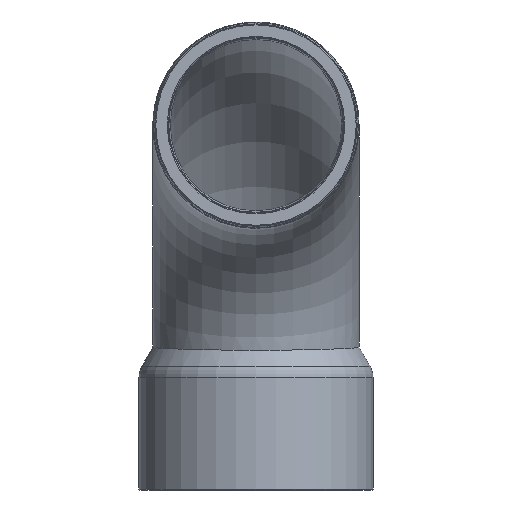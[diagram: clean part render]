
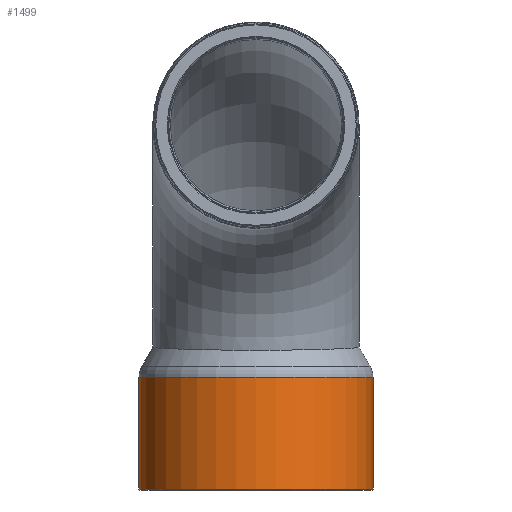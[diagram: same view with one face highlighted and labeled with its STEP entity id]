
A CAD part, front view. The second image highlights one B-rep face of the part: STEP entity #1499.
In plain terms, the highlighted cylindrical face has radius 23.427 mm (diameter 46.855 mm), a full revolution.
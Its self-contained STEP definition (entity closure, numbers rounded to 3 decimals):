
#1465=CARTESIAN_POINT('',(0.,72.927,-23.3));
#1466=VERTEX_POINT('',#1465);
#1467=CARTESIAN_POINT('',(0.0,49.5,-23.3));
#1468=DIRECTION('',(0.0,0.0,-1.0));
#1469=DIRECTION('',(0.0,-1.0,0.0));
#1470=AXIS2_PLACEMENT_3D('',#1467,#1468,#1469);
#1471=CIRCLE('',#1470,23.427);
#1472=EDGE_CURVE('',#1466,#1466,#1471,.T.);
#1480=CARTESIAN_POINT('',(0.0,49.5,-12.237));
#1481=DIRECTION('',(0.0,0.0,-1.0));
#1482=DIRECTION('',(0.0,1.0,0.0));
#1483=AXIS2_PLACEMENT_3D('',#1480,#1481,#1482);
#1484=CYLINDRICAL_SURFACE('',#1483,23.427);
#1485=CARTESIAN_POINT('',(0.0,72.927,-0.975));
#1486=VERTEX_POINT('',#1485);
#1487=CARTESIAN_POINT('',(0.0,49.5,-0.975));
#1488=DIRECTION('',(0.0,0.0,-1.0));
#1489=DIRECTION('',(0.0,1.0,0.0));
#1490=AXIS2_PLACEMENT_3D('',#1487,#1488,#1489);
#1491=CIRCLE('',#1490,23.427);
#1492=EDGE_CURVE('',#1486,#1486,#1491,.T.);
#1493=ORIENTED_EDGE('',*,*,#1492,.T.);
#1494=EDGE_LOOP('',(#1493));
#1495=FACE_OUTER_BOUND('',#1494,.T.);
#1496=ORIENTED_EDGE('',*,*,#1472,.F.);
#1497=EDGE_LOOP('',(#1496));
#1498=FACE_BOUND('',#1497,.T.);
#1499=ADVANCED_FACE('',(#1495,#1498),#1484,.T.);
